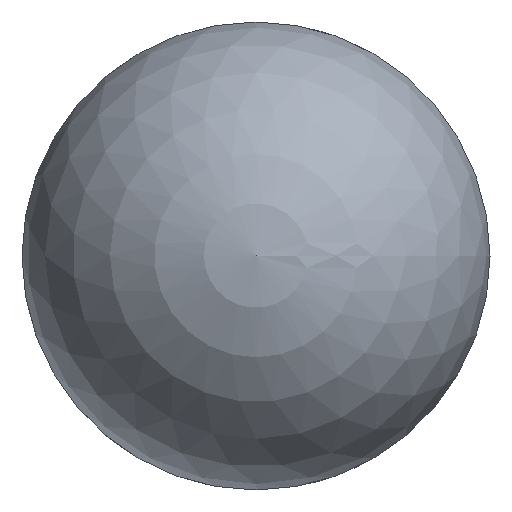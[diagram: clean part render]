
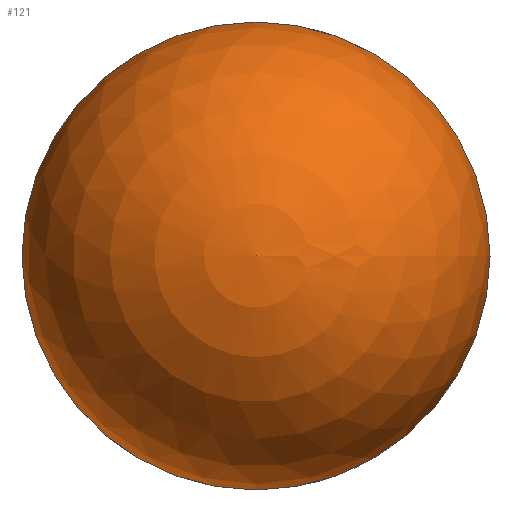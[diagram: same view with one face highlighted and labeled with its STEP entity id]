
A CAD part, top view. The second image highlights one B-rep face of the part: STEP entity #121.
In plain terms, the highlighted spherical face has radius 14 mm.
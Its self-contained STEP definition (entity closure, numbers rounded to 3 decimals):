
#82=CARTESIAN_POINT('',(14.,0.,68.262));
#83=VERTEX_POINT('',#82);
#91=CARTESIAN_POINT('',(0.,0.,68.262));
#92=DIRECTION('',(1.,0.,0.));
#93=DIRECTION('',(0.,0.,1.));
#94=AXIS2_PLACEMENT_3D('',#91,#93,#92);
#95=CIRCLE('',#94,14.);
#96=EDGE_CURVE('',#83,#83,#95,.T.);
#103=CARTESIAN_POINT('',(0.,0.,68.3));
#104=DIRECTION('',(1.,0.,0.));
#105=DIRECTION('',(0.,0.,1.));
#106=AXIS2_PLACEMENT_3D('',#103,#105,#104);
#107=SPHERICAL_SURFACE('',#106,14.);
#108=CARTESIAN_POINT('',(0.,0.,82.3));
#109=VERTEX_POINT('',#108);
#110=CARTESIAN_POINT('',(0.,0.,68.3));
#111=DIRECTION('',(1.,0.,-0.003));
#112=DIRECTION('',(-0.,-1.,0.));
#113=AXIS2_PLACEMENT_3D('',#110,#112,#111);
#114=CIRCLE('',#113,14.);
#115=EDGE_CURVE('',#83,#109,#114,.T.);
#116=ORIENTED_EDGE('E3',*,*,#115,.T.);
#117=ORIENTED_EDGE('E7',*,*,#115,.F.);
#118=ORIENTED_EDGE('E7',*,*,#96,.F.);
#119=EDGE_LOOP('',(#116,#117,#118));
#120=FACE_OUTER_BOUND('',#119,.F.);
#121=ADVANCED_FACE('F4',(#120),#107,.T.);
